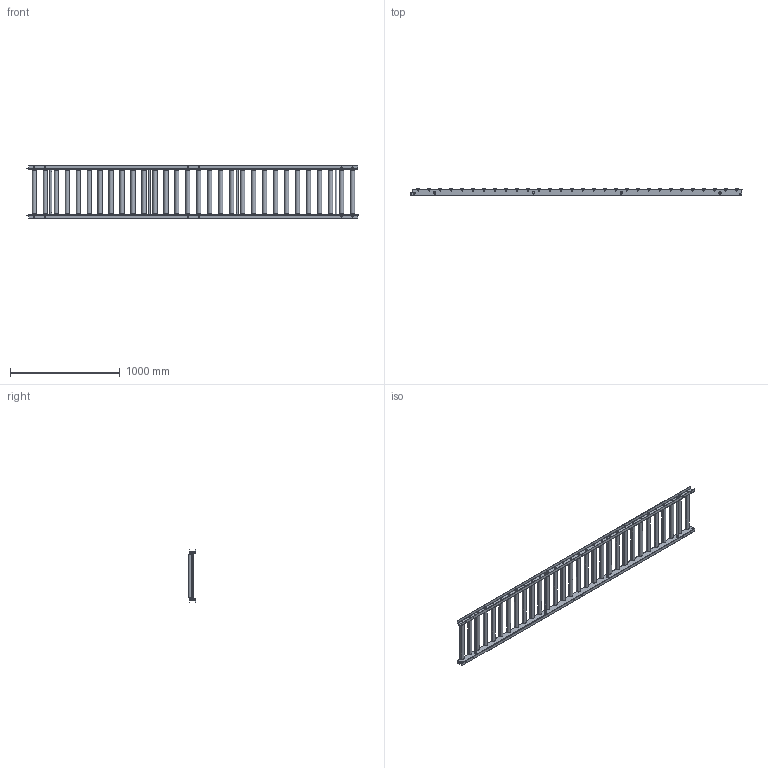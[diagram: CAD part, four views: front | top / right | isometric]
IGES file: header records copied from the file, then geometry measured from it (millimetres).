
Start section: SolidWorks IGES file using analytic representation for surfaces
Global section: file name: C:\Users\0656\Desktop\変換ツール\iges変換\R-3812PD.igs; native system: SolidWorks 2023; preprocessor: SolidWorks 2023; author: 0656; date: 240220.165936; units: millimetre
Bounding box: 3025 x 67.04 x 475 mm (x, y, z)
Surface area: 4441143.9 mm2 (no closed solid volume)
Topology: 0 solids, 0 shells, 1280 faces, 26148 edges, 26148 vertices
Faces by surface type: revolution 670, bspline 610
